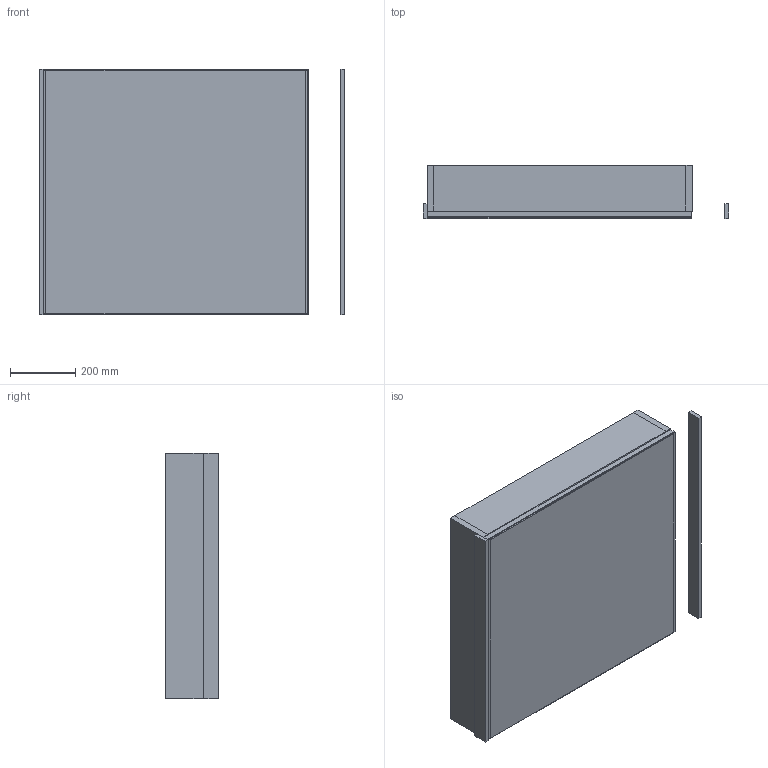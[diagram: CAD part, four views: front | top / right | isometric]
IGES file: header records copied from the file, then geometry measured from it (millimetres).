
Start section: Data from Parasolid IGES Translator 19.0.9, Copyright(c) 2006 Siemens PL M Software. All Rights Reserved.
Global section: file name: noorth-mirror-H 75 D 4,5-16 W 81_9144.igs; native system: By Siemens PLM Incorporated; preprocessor: XPlus GENERIC/IGES 19.0.9; author: Noname; organization: Noname; date: 20200519.112338; units: metre
Bounding box: 933.82 x 162 x 750 mm (x, y, z)
Volume: 22457714 mm3; surface area: 4796654.2 mm2
Topology: 10 solids, 10 shells, 84 faces, 168 edges, 104 vertices
Faces by surface type: plane 84
